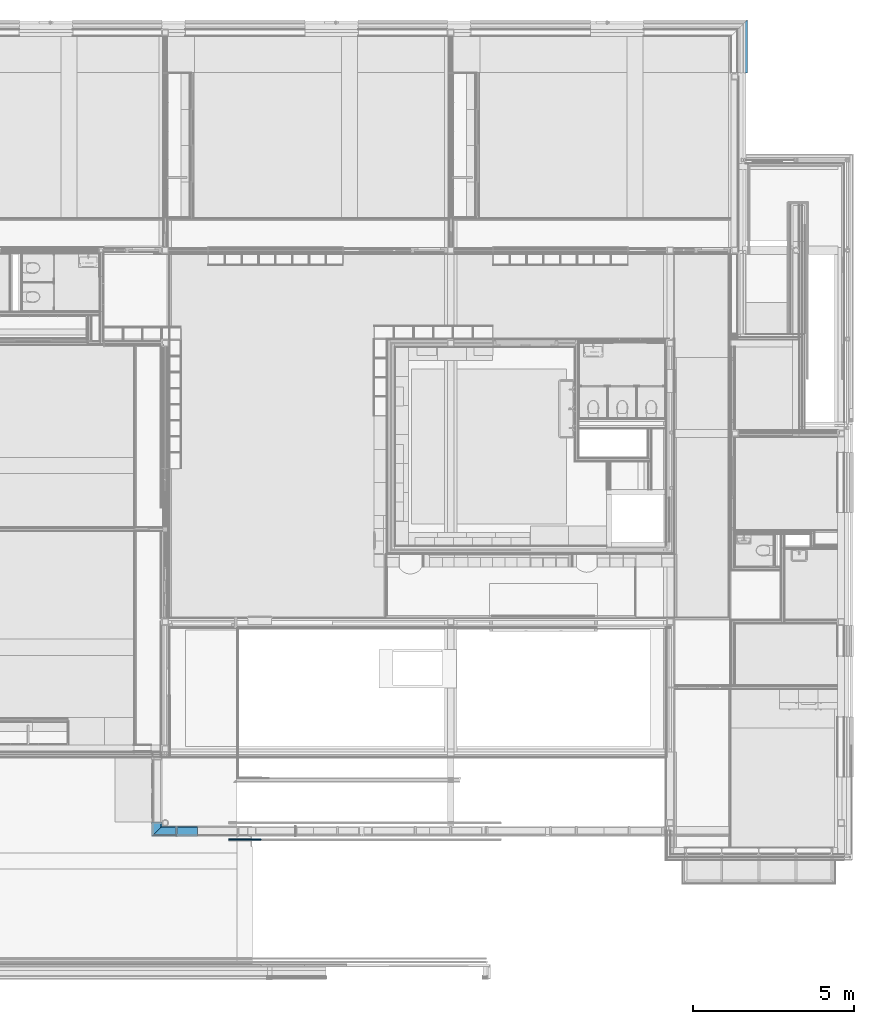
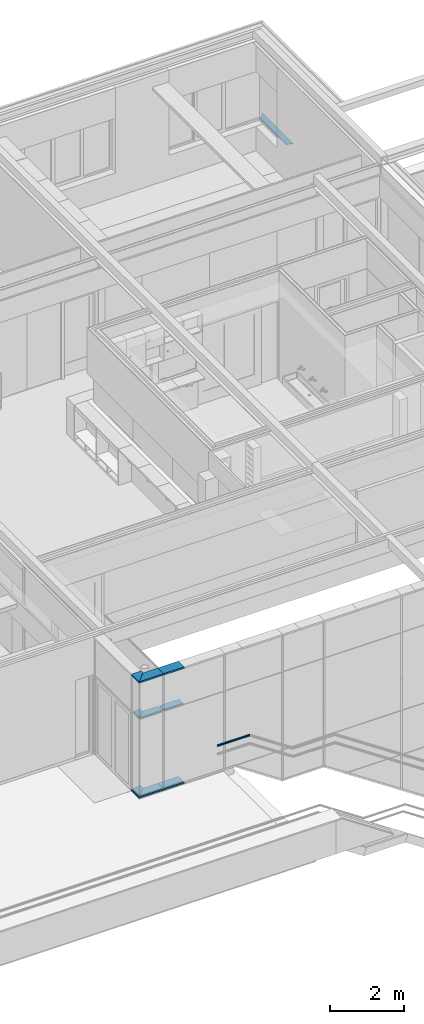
# One storey, part 28 of 137: 10 members, 1 beam, 2 elements without a shape of their own.
"""IFC2X3 building model written with IfcOpenShell, lengths in millimetres."""

from ifc_helpers import new_model, entity, si_unit, converted_unit, derived_unit, money_unit, direction, frame, origin_with_axes, place, context, subcontext, project, spatial, faceted_brep, material, type_object, element, aggregate, save


model = new_model("IFC2X3")

# Units and contexts
model_context = context("Model", 3, precision=0.01, world=origin_with_axes(), true_north=direction((0.0, 1.0)))
body_context = subcontext(model_context, "Body", "Model", "MODEL_VIEW")
ifc_project = project(units=[si_unit("LENGTHUNIT", "METRE", prefix="MILLI"), si_unit("AREAUNIT", "SQUARE_METRE"), si_unit("VOLUMEUNIT", "CUBIC_METRE"), converted_unit("PLANEANGLEUNIT", "DEGREE", entity("IfcPlaneAngleMeasure", 0.0174532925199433), si_unit("PLANEANGLEUNIT", "RADIAN"), dimensions=[0, 0, 0, 0, 0, 0, 0]), money_unit("EUR"), converted_unit("TIMEUNIT", "Year", entity("IfcTimeMeasure", 31556926.0), si_unit("TIMEUNIT", "SECOND"), dimensions=[0, 0, 1, 0, 0, 0, 0]), si_unit("MASSUNIT", "GRAM", prefix="KILO"), si_unit("THERMODYNAMICTEMPERATUREUNIT", "DEGREE_CELSIUS"), si_unit("LUMINOUSINTENSITYUNIT", "LUMEN"), si_unit("ENERGYUNIT", "JOULE", prefix="MEGA"), derived_unit("THERMALCONDUCTANCEUNIT", [(si_unit("POWERUNIT", "WATT"), 1), (si_unit("LENGTHUNIT", "METRE"), -1), (si_unit("THERMODYNAMICTEMPERATUREUNIT", "KELVIN"), -1)]), derived_unit("SPECIFICHEATCAPACITYUNIT", [(si_unit("ENERGYUNIT", "JOULE"), 1), (si_unit("MASSUNIT", "GRAM", prefix="KILO"), -1), (si_unit("THERMODYNAMICTEMPERATUREUNIT", "KELVIN"), -1)]), derived_unit("MASSDENSITYUNIT", [(si_unit("MASSUNIT", "GRAM", prefix="KILO"), 1), (si_unit("VOLUMEUNIT", "CUBIC_METRE"), -1)])], contexts=[model_context])

# Site, building, storey
site_placement = place(None, origin_with_axes())
site = spatial("IfcSite", under=ifc_project, at=site_placement, Name="Site", CompositionType="ELEMENT")
building_placement = place(site_placement, origin_with_axes())
building = spatial("IfcBuilding", under=site, at=building_placement, Name="Naam gebouw", CompositionType="ELEMENT")
storey_placement = place(building_placement, frame((0.0, 0.0, 3960.0), z_axis=(0.0, 0.0, 1.0), x_axis=(1.0, 0.0, 0.0)))
storey = spatial("IfcBuildingStorey", under=building, at=storey_placement, Name="1e verdieping", CompositionType="ELEMENT", Elevation=3960.0)

# Beam
ifc_material_1 = material(Name="Metaal - Aluminium")
beam_type = type_object("IfcBeamType", Name="41 Waterslag 218 x 75", PredefinedType="BEAM")
beam_placement = place(storey_placement, frame((26850.0, 29425.0, 750.0), z_axis=(0.0, 0.0, 1.0), x_axis=(-1.0, -2.75446055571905e-10, 0.0)))
element("IfcBeam", 1, at=beam_placement, inside=storey, type_object=beam_type, material=ifc_material_1, Name="h4 Aluminium, aluminiumlegeringen_Regenwaterafvoer-x", ObjectType="BEAM", context=body_context, shape_type="Brep", body=[
    faceted_brep([(178.0000000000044, 177.9999999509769, 49.99999999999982), (178.0000000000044, 1603.99999984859, 49.99999999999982), (175.0000000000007, 1603.99999984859, 49.99999999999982), (175.0000000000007, 174.9999999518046, 49.99999999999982), (177.9999999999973, 177.9999999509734, 27.27462510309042), (177.9999999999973, 1603.99999984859, 27.27462510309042), (-36.99999999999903, 1603.99999984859, 12.08231741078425), (-36.99999999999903, 1603.99999984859, -21.99999999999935), (-21.99999999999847, 1603.99999984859, -21.99999999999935), (-21.99999999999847, 1603.99999984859, -24.99999999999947), (-39.99999999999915, 1603.99999984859, -24.99999999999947), (-39.99999999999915, 1603.99999984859, 15.00000000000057), (175.0000000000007, 1603.99999984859, 30.00000000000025), (175.0000000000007, 174.9999999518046, 30.00000000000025), (-39.99999999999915, -39.99999998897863, 15.00000000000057), (-39.99999999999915, -39.99999998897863, -24.99999999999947), (-21.99999999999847, -21.99999999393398, -24.99999999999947), (-21.99999999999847, -21.99999999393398, -21.99999999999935), (-36.99999999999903, -36.99999998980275, -21.99999999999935), (-36.99999999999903, -36.99999998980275, 12.08231741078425)], [[[0, 1, 2, 3]], [[4, 5, 1, 0]], [[2, 1, 5, 6, 7, 8, 9, 10, 11, 12]], [[3, 2, 12, 13]], [[4, 0, 3, 13, 14, 15, 16, 17, 18, 19]], [[19, 6, 5, 4]], [[18, 7, 6, 19]], [[17, 8, 7, 18]], [[16, 9, 8, 17]], [[15, 10, 9, 16]], [[14, 11, 10, 15]], [[13, 12, 11, 14]]]),
])

# Railing, member
railing_type = type_object("IfcRailingType", Name="Railing Type", PredefinedType="NOTDEFINED")
railing_placement = place(storey_placement, frame((18789.99987047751, 4162.49999999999, -4086.699999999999), z_axis=(0.0, 0.0, 1.0), x_axis=(1.0, 0.0, 0.0)))
railing = element("IfcRailing", 2, at=railing_placement, inside=storey, type_object=railing_type, Name="34_Reling-x", PredefinedType="NOTDEFINED")
ifc_material_2 = material(Name="Metaal - RVS")
member_type_1 = type_object("IfcMemberType", Name="IfcMember", PredefinedType="USERDEFINED")
member_1_placement = place(railing_placement, frame((-7468.117360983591, -99.99999999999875, 5032.675675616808), z_axis=(0.0, 0.0, 1.0), x_axis=(1.0, 0.0, 0.0)))
member_1 = element("IfcMember", 3, at=member_1_placement, type_object=member_type_1, material=ifc_material_2, Name="h3 Staal legeringen_", context=body_context, shape_type="Brep", body=[
    faceted_brep([(490.8055038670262, -24.14999999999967, 29.85104165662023), (492.0752249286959, -23.78310723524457, 34.04464514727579), (-498.1175360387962, -23.78310723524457, 34.04464514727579), (-498.1175360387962, -24.14999999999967, 29.85104165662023), (489.5357828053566, -23.78310723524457, 25.65743816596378), (488.3046415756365, -22.69357679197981, 21.5912551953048), (487.1494877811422, -20.91451350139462, 17.77604165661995), (486.1054201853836, -18.49997330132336, 14.32772088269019), (485.204162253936, -15.52332077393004, 11.35106835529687), (484.4730982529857, -12.07500000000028, 8.93652815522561), (483.9344411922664, -8.259786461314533, 7.157464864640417), (483.6045578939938, -4.19360349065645, 6.067934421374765), (483.4934716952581, 0.0, 5.701041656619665), (483.6045578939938, 4.19360349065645, 6.067934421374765), (483.9344411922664, 8.259786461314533, 7.157464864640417), (484.4730982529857, 12.07500000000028, 8.93652815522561), (485.204162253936, 15.52332077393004, 11.35106835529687), (486.1054201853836, 18.49997330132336, 14.32772088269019), (487.1494877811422, 20.91451350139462, 17.77604165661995), (488.3046415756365, 22.69357679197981, 21.5912551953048), (489.5357828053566, 23.78310723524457, 25.65743816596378), (490.8055038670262, 24.14999999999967, 29.85104165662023), (492.0752249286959, 23.78310723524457, 34.04464514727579), (493.3063661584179, 22.69357679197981, 38.11082811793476), (494.4615199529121, 20.91451350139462, 41.92604165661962), (495.5055875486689, 18.49997330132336, 45.37436243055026), (496.4068454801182, 15.52332077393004, 48.35101495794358), (497.1379094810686, 12.07500000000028, 50.76555515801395), (497.6765665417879, 8.259786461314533, 52.54461844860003), (498.0064498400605, 4.19360349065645, 53.6341488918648), (498.1175360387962, 0.0, 54.0010416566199), (498.0064498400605, -4.19360349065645, 53.6341488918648), (497.6765665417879, -8.259786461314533, 52.54461844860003), (497.1379094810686, -12.07500000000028, 50.76555515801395), (496.4068454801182, -15.52332077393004, 48.35101495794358), (495.5055875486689, -18.49997330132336, 45.37436243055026), (494.4615199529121, -20.91451350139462, 41.92604165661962), (493.3063661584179, -22.69357679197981, 38.11082811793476), (-498.1175360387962, -22.69357679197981, 38.11082811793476), (-498.1175360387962, -20.91451350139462, 41.92604165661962), (-498.1175360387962, -18.49997330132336, 45.37436243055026), (-498.1175360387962, -15.52332077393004, 48.35101495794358), (-498.1175360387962, -12.07500000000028, 50.76555515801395), (-498.1175360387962, -8.259786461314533, 52.54461844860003), (-498.1175360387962, -4.19360349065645, 53.6341488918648), (-498.1175360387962, 0.0, 54.0010416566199), (-498.1175360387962, 4.19360349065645, 53.6341488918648), (-498.1175360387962, 8.259786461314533, 52.54461844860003), (-498.1175360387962, 12.07500000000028, 50.76555515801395), (-498.1175360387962, 15.52332077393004, 48.35101495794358), (-498.1175360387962, 18.49997330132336, 45.37436243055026), (-498.1175360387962, 20.91451350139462, 41.92604165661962), (-498.1175360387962, 22.69357679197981, 38.11082811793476), (-498.1175360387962, 23.78310723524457, 34.04464514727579), (-498.1175360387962, 24.14999999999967, 29.85104165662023), (-498.1175360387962, 23.78310723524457, 25.65743816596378), (-498.1175360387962, 22.69357679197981, 21.5912551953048), (-498.1175360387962, 20.91451350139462, 17.77604165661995), (-498.1175360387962, 18.49997330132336, 14.32772088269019), (-498.1175360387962, 15.52332077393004, 11.35106835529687), (-498.1175360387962, 12.07500000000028, 8.93652815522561), (-498.1175360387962, 8.259786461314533, 7.157464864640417), (-498.1175360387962, 4.19360349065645, 6.067934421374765), (-498.1175360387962, 0.0, 5.701041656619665), (-498.1175360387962, -4.19360349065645, 6.067934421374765), (-498.1175360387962, -8.259786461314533, 7.157464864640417), (-498.1175360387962, -12.07500000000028, 8.93652815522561), (-498.1175360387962, -15.52332077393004, 11.35106835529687), (-498.1175360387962, -18.49997330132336, 14.32772088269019), (-498.1175360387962, -20.91451350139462, 17.77604165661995), (-498.1175360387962, -22.69357679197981, 21.5912551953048), (-498.1175360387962, -23.78310723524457, 25.65743816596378)], [[[0, 1, 2, 3]], [[0, 4, 5, 6, 7, 8, 9, 10, 11, 12, 13, 14, 15, 16, 17, 18, 19, 20, 21, 22, 23, 24, 25, 26, 27, 28, 29, 30, 31, 32, 33, 34, 35, 36, 37, 1]], [[1, 37, 38, 2]], [[3, 2, 38, 39, 40, 41, 42, 43, 44, 45, 46, 47, 48, 49, 50, 51, 52, 53, 54, 55, 56, 57, 58, 59, 60, 61, 62, 63, 64, 65, 66, 67, 68, 69, 70, 71]], [[4, 0, 3, 71]], [[5, 4, 71, 70]], [[6, 5, 70, 69]], [[7, 6, 69, 68]], [[8, 7, 68, 67]], [[9, 8, 67, 66]], [[10, 9, 66, 65]], [[11, 10, 65, 64]], [[12, 11, 64, 63]], [[13, 12, 63, 62]], [[14, 13, 62, 61]], [[15, 14, 61, 60]], [[16, 15, 60, 59]], [[17, 16, 59, 58]], [[18, 17, 58, 57]], [[19, 18, 57, 56]], [[20, 19, 56, 55]], [[21, 20, 55, 54]], [[22, 21, 54, 53]], [[23, 22, 53, 52]], [[24, 23, 52, 51]], [[25, 24, 51, 50]], [[26, 25, 50, 49]], [[27, 26, 49, 48]], [[28, 27, 48, 47]], [[29, 28, 47, 46]], [[30, 29, 46, 45]], [[31, 30, 45, 44]], [[32, 31, 44, 43]], [[33, 32, 43, 42]], [[34, 33, 42, 41]], [[35, 34, 41, 40]], [[36, 35, 40, 39]], [[37, 36, 39, 38]]]),
])
aggregate(railing, [member_1])

# Curtain wall, members
curtain_wall_type = type_object("IfcCurtainWallType", Name="Curtain Wall Type", PredefinedType="NOTDEFINED")
curtain_wall_placement = place(storey_placement, frame((8473.014787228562, 4364.43626274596, -3949.999921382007), z_axis=(0.0, 0.0, 1.0), x_axis=(1.0, 0.0, 0.0)))
curtain_wall = element("IfcCurtainWall", 4, at=curtain_wall_placement, inside=storey, type_object=curtain_wall_type, Name="21_Vliesgevel-x")
ifc_material_3 = material(Name="Metaal - Staal AFW")
member_type_2 = type_object("IfcMemberType", Name="Boundary Frame 50 x 313", PredefinedType="MULLION")
member_2_placement = place(curtain_wall_placement, frame((0.0, 215.2483520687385, 3960.00010171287), z_axis=(0.0, -1.0, -1.830273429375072e-09), x_axis=(0.0, -1.830273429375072e-09, 1.0)))
member_2 = element("IfcMember", 5, at=member_2_placement, type_object=member_type_2, material=ifc_material_3, Name="h METAAL_Kader-x", ObjectType="MULLION", context=body_context, shape_type="Brep", body=[
    faceted_brep([(34.99999995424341, -17.4000000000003, -25.00000006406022), (34.99999995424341, 21.0000000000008, -25.00000006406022), (35.00000072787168, 21.0000000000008, 397.6846147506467), (35.00000065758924, -17.4000000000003, 359.2846147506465), (14.99999995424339, -17.4000000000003, -25.00000002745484), (14.99999995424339, 21.0000000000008, -25.00000002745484), (15.00000072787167, 21.0000000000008, 397.6846147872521), (15.00000065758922, -17.4000000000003, 359.2846147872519)], [[[0, 1, 2, 3]], [[0, 4, 5, 1]], [[1, 5, 6, 2]], [[3, 2, 6, 7]], [[4, 0, 3, 7]], [[5, 4, 7, 6]]]),
    faceted_brep([(14.99999995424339, -21.0000000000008, -25.00000002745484), (14.99999995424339, 21.0000000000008, -25.00000002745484), (15.00000072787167, 21.0000000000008, 397.6846147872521), (15.00000065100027, -21.0000000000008, 355.6846147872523), (-4.57567317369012e-08, -21.0000000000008, -25.00000000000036), (-4.57567317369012e-08, 21.0000000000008, -25.00000000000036), (7.278715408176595e-07, 21.0000000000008, 397.6846148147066), (6.510001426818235e-07, -21.0000000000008, 355.6846148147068)], [[[0, 1, 2, 3]], [[0, 4, 5, 1]], [[1, 5, 6, 2]], [[3, 2, 6, 7]], [[4, 0, 3, 7]], [[5, 4, 7, 6]]]),
    faceted_brep([(49.99999995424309, -272.0000000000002, -25.00000009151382), (49.99999995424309, -17.4000000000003, -25.00000009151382), (50.00000065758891, -17.4000000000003, 359.2846147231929), (50.00000019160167, -272.0000000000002, 104.6846147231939), (-4.57567317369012e-08, -272.0000000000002, -25.00000000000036), (-4.57567317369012e-08, -17.4000000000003, -25.00000000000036), (6.575890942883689e-07, -17.4000000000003, 359.2846148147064), (1.916014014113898e-07, -272.0000000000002, 104.6846148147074)], [[[0, 1, 2, 3]], [[0, 4, 5, 1]], [[1, 5, 6, 2]], [[3, 2, 6, 7]], [[4, 0, 3, 7]], [[5, 4, 7, 6]]]),
    faceted_brep([(-4.57567317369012e-08, 41.00000000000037, -25.00000000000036), (-4.57567317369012e-08, 21.0000000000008, -25.00000000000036), (7.278715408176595e-07, 21.0000000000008, 397.6846148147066), (7.644769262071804e-07, 41.00000000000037, 417.6846148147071), (49.99999995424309, 41.00000000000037, -25.00000009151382), (49.99999995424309, 21.0000000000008, -25.00000009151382), (50.00000072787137, 21.0000000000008, 397.6846147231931), (50.00000076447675, 41.00000000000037, 417.6846147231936)], [[[0, 1, 2, 3]], [[0, 4, 5, 1]], [[1, 5, 6, 2]], [[3, 2, 6, 7]], [[4, 0, 3, 7]], [[5, 4, 7, 6]]]),
])
member_3_placement = place(curtain_wall_placement, frame((726.9852200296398, -161.4362627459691, 3960.000082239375), z_axis=(1.0, 0.0, 0.0), x_axis=(0.0, 0.0, 1.0)))
member_3 = element("IfcMember", 6, at=member_3_placement, type_object=member_type_2, material=ifc_material_3, Name="h METAAL_Kader-x", ObjectType="MULLION", context=body_context, shape_type="Brep", body=[
    faceted_brep([(35.00000000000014, -17.4000000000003, 0.0), (35.00000000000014, 20.99999999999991, 0.0), (35.00000000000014, 20.99999999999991, 642.9564255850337), (35.00000000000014, -17.4000000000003, 642.9564255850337), (15.00000000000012, -17.4000000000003, 0.0), (15.00000000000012, 20.99999999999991, 0.0), (15.00000000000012, 20.99999999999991, 642.9564255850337), (15.00000000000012, -17.4000000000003, 642.9564255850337)], [[[0, 1, 2, 3]], [[0, 4, 5, 1]], [[1, 5, 6, 2]], [[3, 2, 6, 7]], [[4, 0, 3, 7]], [[5, 4, 7, 6]]]),
    faceted_brep([(15.00000000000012, -20.99999999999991, 0.0), (15.00000000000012, 20.99999999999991, 0.0), (15.00000000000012, 20.99999999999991, 642.9564255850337), (15.00000000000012, -20.99999999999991, 642.9564255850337), (0.0, -20.99999999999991, 0.0), (0.0, 20.99999999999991, 0.0), (0.0, 20.99999999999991, 642.9564255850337), (0.0, -20.99999999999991, 642.9564255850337)], [[[0, 1, 2, 3]], [[0, 4, 5, 1]], [[1, 5, 6, 2]], [[3, 2, 6, 7]], [[4, 0, 3, 7]], [[5, 4, 7, 6]]]),
    faceted_brep([(49.99999999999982, -272.0000000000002, 0.0), (49.99999999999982, -17.4000000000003, 0.0), (49.99999999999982, -17.4000000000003, 642.9564255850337), (49.99999999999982, -272.0000000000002, 642.9564255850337), (0.0, -272.0000000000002, 0.0), (0.0, -17.4000000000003, 0.0), (0.0, -17.4000000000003, 642.9564255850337), (0.0, -272.0000000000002, 642.9564255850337)], [[[0, 1, 2, 3]], [[0, 4, 5, 1]], [[1, 5, 6, 2]], [[3, 2, 6, 7]], [[4, 0, 3, 7]], [[5, 4, 7, 6]]]),
    faceted_brep([(0.0, 41.00000000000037, 0.0), (0.0, 20.99999999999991, 0.0), (0.0, 20.99999999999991, 642.9564255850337), (0.0, 41.00000000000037, 642.9564255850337), (49.99999999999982, 41.00000000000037, 0.0), (49.99999999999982, 20.99999999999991, 0.0), (49.99999999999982, 20.99999999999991, 642.9564255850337), (49.99999999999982, 41.00000000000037, 642.9564255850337)], [[[0, 1, 2, 3]], [[0, 4, 5, 1]], [[1, 5, 6, 2]], [[3, 2, 6, 7]], [[4, 0, 3, 7]], [[5, 4, 7, 6]]]),
])
member_4_placement = place(curtain_wall_placement, frame((0.0, -161.4362627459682, 3960.000082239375), z_axis=(1.0, 0.0, 0.0), x_axis=(0.0, 0.0, 1.0)))
member_4 = element("IfcMember", 7, at=member_4_placement, type_object=member_type_2, material=ifc_material_3, Name="h METAAL_Kader-x", ObjectType="MULLION", context=body_context, shape_type="Brep", body=[
    faceted_brep([(35.00000000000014, 20.99999999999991, -20.99999993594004), (35.00000000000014, 20.99999999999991, 726.9852200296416), (35.00000000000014, -17.4000000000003, 726.9852200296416), (35.00000000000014, -17.4000000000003, 17.40000006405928), (15.00000000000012, 20.99999999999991, -20.99999997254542), (15.00000000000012, 20.99999999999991, 726.9852200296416), (15.00000000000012, -17.4000000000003, 726.9852200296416), (15.00000000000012, -17.4000000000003, 17.4000000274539)], [[[0, 1, 2, 3]], [[4, 5, 1, 0]], [[2, 1, 5, 6]], [[3, 2, 6, 7]], [[3, 7, 4, 0]], [[7, 6, 5, 4]]]),
    faceted_brep([(15.00000000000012, 20.99999999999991, -20.99999997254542), (15.00000000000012, 20.99999999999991, 726.9852200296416), (15.00000000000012, -20.99999999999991, 726.9852200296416), (15.00000000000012, -20.99999999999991, 21.00000002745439), (0.0, 20.99999999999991, -21.0000000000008), (0.0, 20.99999999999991, 726.9852200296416), (0.0, -20.99999999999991, 726.9852200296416), (0.0, -20.99999999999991, 21.0000000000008)], [[[0, 1, 2, 3]], [[4, 5, 1, 0]], [[2, 1, 5, 6]], [[3, 2, 6, 7]], [[3, 7, 4, 0]], [[7, 6, 5, 4]]]),
    faceted_brep([(49.99999999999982, -17.4000000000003, 17.40000009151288), (49.99999999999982, -17.4000000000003, 726.9852200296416), (49.99999999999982, -272.0000000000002, 726.9852200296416), (49.99999999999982, -271.9999999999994, 272.0000000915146), (0.0, -17.4000000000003, 17.4000000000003), (0.0, -17.4000000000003, 726.9852200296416), (0.0, -272.0000000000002, 726.9852200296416), (0.0, -271.9999999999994, 272.0000000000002)], [[[0, 1, 2, 3]], [[4, 5, 1, 0]], [[2, 1, 5, 6]], [[3, 2, 6, 7]], [[3, 7, 4, 0]], [[7, 6, 5, 4]]]),
    faceted_brep([(0.0, 20.99999999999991, -21.0000000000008), (0.0, 20.99999999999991, 726.9852200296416), (0.0, 41.00000000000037, 726.9852200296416), (0.0, 41.00000000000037, -41.00000000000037), (49.99999999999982, 20.99999999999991, -20.99999990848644), (49.99999999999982, 20.99999999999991, 726.9852200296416), (49.99999999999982, 41.00000000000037, 726.9852200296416), (49.99999999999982, 41.00000000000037, -40.99999990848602)], [[[0, 1, 2, 3]], [[4, 5, 1, 0]], [[2, 1, 5, 6]], [[3, 2, 6, 7]], [[3, 7, 4, 0]], [[7, 6, 5, 4]]]),
])
member_5_placement = place(curtain_wall_placement, frame((726.9852286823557, -161.4362627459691, 7800.000020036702), z_axis=(1.0, 0.0, 0.0), x_axis=(0.0, 0.0, 1.0)))
member_5 = element("IfcMember", 8, at=member_5_placement, type_object=member_type_2, material=ifc_material_3, Name="h METAAL_Kader-x", ObjectType="MULLION", context=body_context, shape_type="Brep", body=[
    faceted_brep([(-35.00000000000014, -17.4000000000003, 0.0), (-35.00000000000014, -17.4000000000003, 642.9564169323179), (-35.00000000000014, 20.99999999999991, 642.9564169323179), (-35.00000000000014, 20.99999999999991, 0.0), (-14.99999999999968, -17.4000000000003, 0.0), (-14.99999999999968, -17.4000000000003, 642.9564169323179), (-14.99999999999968, 20.99999999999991, 642.9564169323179), (-14.99999999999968, 20.99999999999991, 0.0)], [[[0, 1, 2, 3]], [[4, 5, 1, 0]], [[1, 5, 6, 2]], [[3, 2, 6, 7]], [[0, 3, 7, 4]], [[7, 6, 5, 4]]]),
    faceted_brep([(-14.99999999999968, -20.99999999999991, 0.0), (-14.99999999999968, -20.99999999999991, 642.9564169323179), (-14.99999999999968, 20.99999999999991, 642.9564169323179), (-14.99999999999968, 20.99999999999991, 0.0), (0.0, -20.99999999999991, 0.0), (0.0, -20.99999999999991, 642.9564169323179), (0.0, 20.99999999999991, 642.9564169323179), (0.0, 20.99999999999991, 0.0)], [[[0, 1, 2, 3]], [[4, 5, 1, 0]], [[1, 5, 6, 2]], [[3, 2, 6, 7]], [[0, 3, 7, 4]], [[7, 6, 5, 4]]]),
    faceted_brep([(-49.99999999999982, -272.0000000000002, 0.0), (-49.99999999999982, -272.0000000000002, 642.9564169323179), (-49.99999999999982, -17.4000000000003, 642.9564169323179), (-49.99999999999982, -17.4000000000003, 0.0), (0.0, -272.0000000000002, 0.0), (0.0, -272.0000000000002, 642.9564169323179), (0.0, -17.4000000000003, 642.9564169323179), (0.0, -17.4000000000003, 0.0)], [[[0, 1, 2, 3]], [[4, 5, 1, 0]], [[1, 5, 6, 2]], [[3, 2, 6, 7]], [[0, 3, 7, 4]], [[7, 6, 5, 4]]]),
    faceted_brep([(0.0, 41.00000000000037, 0.0), (0.0, 41.00000000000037, 642.9564169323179), (0.0, 20.99999999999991, 642.9564169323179), (0.0, 20.99999999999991, 0.0), (-49.99999999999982, 41.00000000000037, 0.0), (-49.99999999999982, 41.00000000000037, 642.9564169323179), (-49.99999999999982, 20.99999999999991, 642.9564169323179), (-49.99999999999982, 20.99999999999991, 0.0)], [[[0, 1, 2, 3]], [[4, 5, 1, 0]], [[1, 5, 6, 2]], [[3, 2, 6, 7]], [[0, 3, 7, 4]], [[7, 6, 5, 4]]]),
])
member_6_placement = place(curtain_wall_placement, frame((0.0, 215.2483449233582, 7800.000041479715), z_axis=(0.0, -1.0, 0.0), x_axis=(0.0, 0.0, 1.0)))
member_6 = element("IfcMember", 9, at=member_6_placement, type_object=member_type_2, material=ifc_material_3, Name="h METAAL_Kader-x", ObjectType="MULLION", context=body_context, shape_type="Brep", body=[
    faceted_brep([(-35.00000000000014, -17.4000000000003, 0.0), (-35.00000000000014, -17.4000000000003, 359.2846076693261), (-35.00000000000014, 21.0000000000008, 397.6846076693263), (-35.00000000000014, 21.0000000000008, 0.0), (-14.99999999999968, -17.4000000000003, 0.0), (-14.99999999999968, -17.4000000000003, 359.2846076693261), (-14.99999999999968, 21.0000000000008, 397.6846076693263), (-14.99999999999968, 21.0000000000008, 0.0)], [[[0, 1, 2, 3]], [[4, 5, 1, 0]], [[1, 5, 6, 2]], [[3, 2, 6, 7]], [[0, 3, 7, 4]], [[7, 6, 5, 4]]]),
    faceted_brep([(-14.99999999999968, -21.0000000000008, 0.0), (-14.99999999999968, -21.0000000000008, 355.6846076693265), (-14.99999999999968, 21.0000000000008, 397.6846076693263), (-14.99999999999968, 21.0000000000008, 0.0), (0.0, -21.0000000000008, 0.0), (0.0, -21.0000000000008, 355.6846076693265), (0.0, 21.0000000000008, 397.6846076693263), (0.0, 21.0000000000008, 0.0)], [[[0, 1, 2, 3]], [[4, 5, 1, 0]], [[1, 5, 6, 2]], [[3, 2, 6, 7]], [[0, 3, 7, 4]], [[7, 6, 5, 4]]]),
    faceted_brep([(-49.99999999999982, -272.0000000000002, 0.0), (-49.99999999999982, -272.0000000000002, 104.6846076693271), (-49.99999999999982, -17.4000000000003, 359.2846076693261), (-49.99999999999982, -17.4000000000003, 0.0), (0.0, -272.0000000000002, 0.0), (0.0, -272.0000000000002, 104.6846076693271), (0.0, -17.4000000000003, 359.2846076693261), (0.0, -17.4000000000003, 0.0)], [[[0, 1, 2, 3]], [[4, 5, 1, 0]], [[1, 5, 6, 2]], [[3, 2, 6, 7]], [[0, 3, 7, 4]], [[7, 6, 5, 4]]]),
    faceted_brep([(0.0, 41.00000000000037, 0.0), (0.0, 41.00000000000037, 417.6846076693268), (0.0, 21.0000000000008, 397.6846076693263), (0.0, 21.0000000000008, 0.0), (-49.99999999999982, 41.00000000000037, 0.0), (-49.99999999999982, 41.00000000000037, 417.6846076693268), (-49.99999999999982, 21.0000000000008, 397.6846076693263), (-49.99999999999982, 21.0000000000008, 0.0)], [[[0, 1, 2, 3]], [[4, 5, 1, 0]], [[1, 5, 6, 2]], [[3, 2, 6, 7]], [[0, 3, 7, 4]], [[7, 6, 5, 4]]]),
])
member_7_placement = place(curtain_wall_placement, frame((0.0, -161.4362627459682, 7800.000020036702), z_axis=(1.0, 0.0, 0.0), x_axis=(0.0, 0.0, 1.0)))
member_7 = element("IfcMember", 10, at=member_7_placement, type_object=member_type_2, material=ifc_material_3, Name="h METAAL_Kader-x", ObjectType="MULLION", context=body_context, shape_type="Brep", body=[
    faceted_brep([(-35.00000000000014, 20.99999999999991, -21.0000000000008), (-35.00000000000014, -17.4000000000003, 17.4000000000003), (-35.00000000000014, -17.4000000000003, 726.9852286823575), (-35.00000000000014, 20.99999999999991, 726.9852286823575), (-14.99999999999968, 20.99999999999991, -21.0000000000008), (-14.99999999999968, -17.4000000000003, 17.4000000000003), (-14.99999999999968, -17.4000000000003, 726.9852286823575), (-14.99999999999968, 20.99999999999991, 726.9852286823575)], [[[0, 1, 2, 3]], [[1, 0, 4, 5]], [[1, 5, 6, 2]], [[2, 6, 7, 3]], [[4, 0, 3, 7]], [[5, 4, 7, 6]]]),
    faceted_brep([(-14.99999999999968, 20.99999999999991, -21.0000000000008), (-14.99999999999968, -20.99999999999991, 21.0000000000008), (-14.99999999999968, -20.99999999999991, 726.9852286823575), (-14.99999999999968, 20.99999999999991, 726.9852286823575), (0.0, 20.99999999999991, -21.0000000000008), (0.0, -20.99999999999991, 21.0000000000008), (0.0, -20.99999999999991, 726.9852286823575), (0.0, 20.99999999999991, 726.9852286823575)], [[[0, 1, 2, 3]], [[1, 0, 4, 5]], [[1, 5, 6, 2]], [[2, 6, 7, 3]], [[4, 0, 3, 7]], [[5, 4, 7, 6]]]),
    faceted_brep([(-49.99999999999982, -17.4000000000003, 17.4000000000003), (-49.99999999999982, -271.9999999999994, 272.0000000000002), (-49.99999999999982, -272.0000000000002, 726.9852286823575), (-49.99999999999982, -17.4000000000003, 726.9852286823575), (0.0, -17.4000000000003, 17.4000000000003), (0.0, -271.9999999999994, 272.0000000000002), (0.0, -272.0000000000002, 726.9852286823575), (0.0, -17.4000000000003, 726.9852286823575)], [[[0, 1, 2, 3]], [[1, 0, 4, 5]], [[1, 5, 6, 2]], [[2, 6, 7, 3]], [[4, 0, 3, 7]], [[5, 4, 7, 6]]]),
    faceted_brep([(0.0, 20.99999999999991, -21.0000000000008), (0.0, 41.00000000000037, -41.00000000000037), (0.0, 41.00000000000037, 726.9852286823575), (0.0, 20.99999999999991, 726.9852286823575), (-49.99999999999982, 20.99999999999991, -21.0000000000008), (-49.99999999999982, 41.00000000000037, -41.00000000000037), (-49.99999999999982, 41.00000000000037, 726.9852286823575), (-49.99999999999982, 20.99999999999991, 726.9852286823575)], [[[0, 1, 2, 3]], [[1, 0, 4, 5]], [[1, 5, 6, 2]], [[2, 6, 7, 3]], [[4, 0, 3, 7]], [[5, 4, 7, 6]]]),
])
member_type_3 = type_object("IfcMemberType", Name="Transom Frame 50 x 258", PredefinedType="MULLION")
member_8_placement = place(curtain_wall_placement, frame((0.0, -161.4362627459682, 6549.999922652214), z_axis=(1.0, 0.0, 0.0), x_axis=(0.0, 0.0, 1.0)))
member_8 = element("IfcMember", 11, at=member_8_placement, type_object=member_type_3, material=ifc_material_3, Name="h METAAL_Kader-x", ObjectType="MULLION", context=body_context, shape_type="Brep", body=[
    faceted_brep([(25.00000000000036, -17.4000000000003, 17.40000114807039), (25.00000000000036, -17.4000000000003, 701.9852202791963), (25.00000000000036, -237.0000000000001, 701.9852186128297), (25.00000000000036, -237.0000000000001, 237.0000011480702), (-25.00000000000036, -17.4000000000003, 17.39999885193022), (-25.00000000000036, -17.4000000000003, 701.9852202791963), (-25.00000000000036, -237.0000000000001, 701.9852186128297), (-25.00000000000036, -237.0000000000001, 236.99999885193)], [[[0, 1, 2, 3]], [[4, 5, 1, 0]], [[2, 1, 5, 6]], [[3, 2, 6, 7]], [[3, 7, 4, 0]], [[7, 6, 5, 4]]]),
])
member_9_placement = place(curtain_wall_placement, frame((0.0, 215.248346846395, 6549.999939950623), z_axis=(0.0, -0.999999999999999, -4.592279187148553e-08), x_axis=(0.0, -4.592279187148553e-08, 0.999999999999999)))
member_9 = element("IfcMember", 12, at=member_9_placement, type_object=member_type_3, material=ifc_material_3, Name="h METAAL_Kader-x", ObjectType="MULLION", context=body_context, shape_type="Brep", body=[
    faceted_brep([(25.00000114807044, -17.4000000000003, 24.99999962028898), (25.00001649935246, -17.4000000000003, 359.2846084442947), (25.00000641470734, -237.0000000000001, 139.6846084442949), (25.00000114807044, -237.0000000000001, 25.00000931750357), (-24.99999885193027, -17.4000000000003, 25.00000191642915), (-24.99998350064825, -17.4000000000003, 359.2846107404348), (-24.99999358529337, -237.0000000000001, 139.684610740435), (-24.99999885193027, -237.0000000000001, 25.00001161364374)], [[[0, 1, 2, 3]], [[4, 5, 1, 0]], [[2, 1, 5, 6]], [[3, 2, 6, 7]], [[3, 7, 4, 0]], [[7, 6, 5, 4]]]),
])
member_10_placement = place(curtain_wall_placement, frame((726.9852204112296, -161.4362627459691, 6549.999922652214), z_axis=(1.0, 0.0, -1.142764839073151e-08), x_axis=(1.142764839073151e-08, 0.0, 1.0)))
member_10 = element("IfcMember", 13, at=member_10_placement, type_object=member_type_3, material=ifc_material_3, Name="h METAAL_Kader-x", ObjectType="MULLION", context=body_context, shape_type="Brep", body=[
    faceted_brep([(25.00000028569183, -17.4000000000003, 24.99999978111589), (25.00000734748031, -17.4000000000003, 642.9564255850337), (25.00000734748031, -237.0000000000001, 642.9564255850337), (25.00000028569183, -237.0000000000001, 25.00000062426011), (-24.99999971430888, -17.4000000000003, 25.00000035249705), (-24.9999926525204, -17.4000000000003, 642.9564261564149), (-24.9999926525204, -237.0000000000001, 642.9564261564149), (-24.99999971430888, -237.0000000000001, 25.00000119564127)], [[[0, 1, 2, 3]], [[4, 5, 1, 0]], [[2, 1, 5, 6]], [[3, 2, 6, 7]], [[3, 7, 4, 0]], [[7, 6, 5, 4]]]),
])
aggregate(curtain_wall, [member_2, member_3, member_4, member_5, member_6, member_7, member_8, member_9, member_10])

save(model, "model.ifc")
